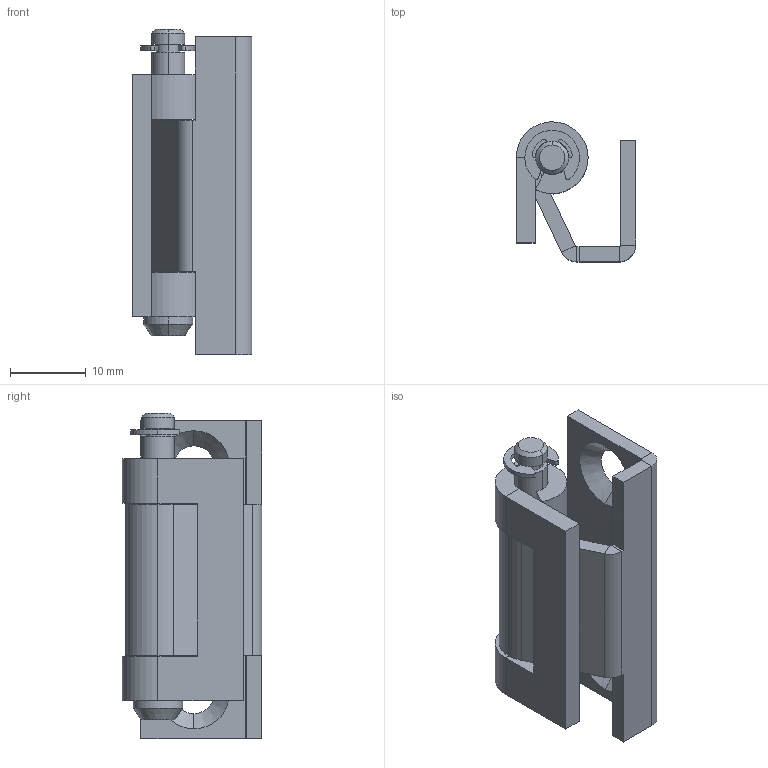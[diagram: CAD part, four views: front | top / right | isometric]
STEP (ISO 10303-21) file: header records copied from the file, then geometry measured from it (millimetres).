
FILE_DESCRIPTION (( 'STEP AP214' ), '1' );
FILE_NAME ('3.ST16.001.STEP', '2012-03-20T07:35:31', ( 'Techniczny' ), ( 'RST Roztocze' ), 'SwSTEP 2.0', 'SolidWorks 2010', '' );
FILE_SCHEMA (( 'AUTOMOTIVE_DESIGN' ));
Length unit declared in the file: millimetre
Products named in the file (5): 3.ST16.001; 3B.ST16.02.00.00_6zagiêcie; 3B.ST16.01.00.00_Default; 3B.ST16.03.00.00; DIN 6799 - 3,2
Assembly tree (4 placements, depth 2):
  3.ST16.001
    3B.ST16.03.00.00
    3B.ST16.01.00.00_Default
    3B.ST16.02.00.00_6zagiêcie
    DIN 6799 - 3,2
Bounding box: 15.8 x 18.5 x 43 mm (x, y, z)
Volume: 4615.1 mm3; surface area: 5352.3 mm2
Topology: 4 solids, 4 shells, 104 faces, 243 edges, 150 vertices
Faces by surface type: plane 53, cylinder 43, cone 8
Entity records: 3163 total; most frequent: DIRECTION 563, CARTESIAN_POINT 504, ORIENTED_EDGE 486, EDGE_CURVE 243, AXIS2_PLACEMENT_3D 209, VERTEX_POINT 150, VECTOR 145, LINE 145
